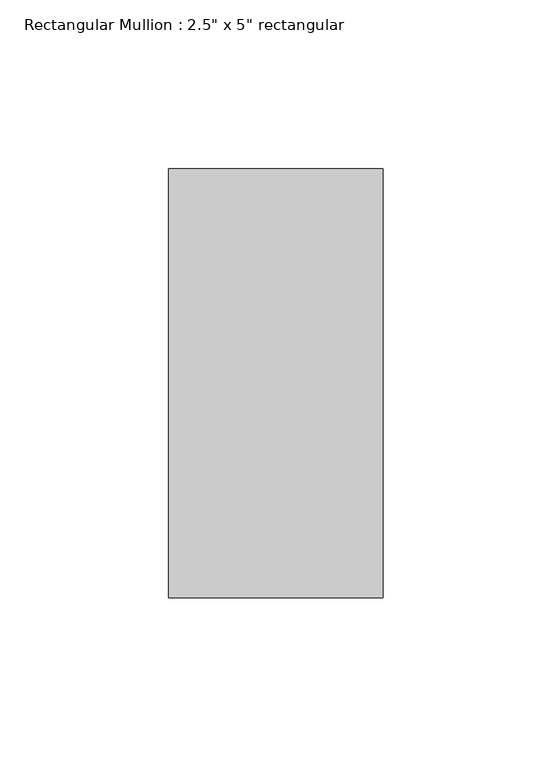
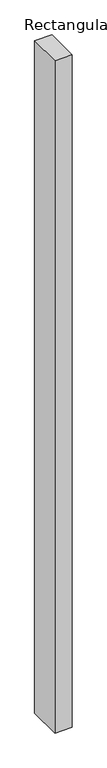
"""IFC4 building model written with IfcOpenShell, lengths in millimetres: member geometry."""

from ifc_helpers import new_model, si_unit, frame, origin, place, context, project, spatial, polyline, outline, extrude, source, transform, mapped, element, save


def member_9f3fc137(model_context):
    return source(origin(), model_context, "Body", "SweptSolid", [
        extrude(outline(polyline([(0.0, 63.5), (0.0, -63.5), (-63.5, -63.5), (-63.5, 63.5), (0.0, 63.5)])), frame((0.0, 0.0, -2590.8), z_axis=(0.0, 0.0, 1.0), x_axis=(1.0, 0.0, 0.0)), (0.0, 0.0, 1.0), 2590.8),
    ])


if __name__ == "__main__":
    model = new_model("IFC4")
    model_context = context("Model", 3, world=origin())
    ifc_project = project(units=[si_unit("LENGTHUNIT", "METRE", prefix="MILLI")], contexts=[model_context])
    site = spatial("IfcSite", under=ifc_project)
    building = spatial("IfcBuilding", under=site)
    placement = place(None, origin())
    member_shape = member_9f3fc137(model_context)
    element("IfcMember", 1, ObjectType="Rectangular Mullion : 2.5\" x 5\" rectangular", at=placement, inside=building, context=model_context, shape_type="MappedRepresentation", body=[
        mapped(member_shape, transform((0.0, 0.0, 0.0), x_axis=(1.0, 0.0, 0.0), y_axis=(0.0, 1.0, 0.0), z_axis=(0.0, 0.0, 1.0))),
    ])
    save(model, "model.ifc")
